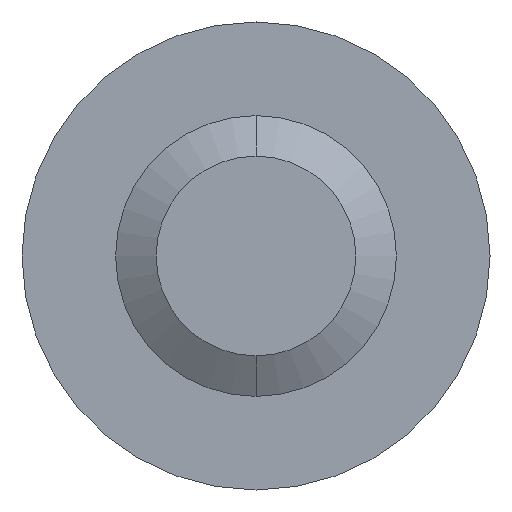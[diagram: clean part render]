
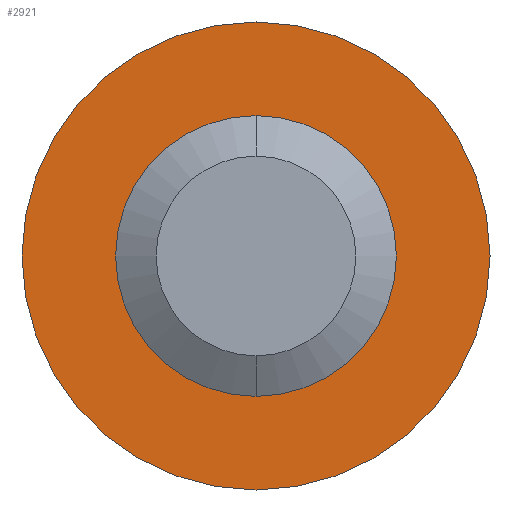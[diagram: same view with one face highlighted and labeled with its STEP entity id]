
A CAD part, front view. The second image highlights one B-rep face of the part: STEP entity #2921.
In plain terms, the highlighted planar face has unit normal (0, -1, 0).
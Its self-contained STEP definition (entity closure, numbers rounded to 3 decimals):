
#412 = EDGE_CURVE ( 'NONE', #1814, #4757, #662, .T. ) ;
#662 = CIRCLE ( 'NONE', #5426, 5. ) ;
#679 = AXIS2_PLACEMENT_3D ( 'NONE', #1621, #2530, #2977 ) ;
#987 = CIRCLE ( 'NONE', #2487, 3. ) ;
#1188 = FACE_BOUND ( 'NONE', #4268, .T. ) ;
#1245 = DIRECTION ( 'NONE',  ( 0., 1., 0. ) ) ;
#1455 = CARTESIAN_POINT ( 'NONE',  ( 0., 50., -5. ) ) ;
#1522 = CIRCLE ( 'NONE', #679, 3. ) ;
#1621 = CARTESIAN_POINT ( 'NONE',  ( 0., 50., 0. ) ) ;
#1706 = DIRECTION ( 'NONE',  ( 0., 0., 1. ) ) ;
#1814 = VERTEX_POINT ( 'NONE', #1455 ) ;
#2206 = CIRCLE ( 'NONE', #2957, 5. ) ;
#2294 = CARTESIAN_POINT ( 'NONE',  ( 0., 50., 0. ) ) ;
#2487 = AXIS2_PLACEMENT_3D ( 'NONE', #3930, #5703, #1706 ) ;
#2530 = DIRECTION ( 'NONE',  ( 0., 1., 0. ) ) ;
#2564 = EDGE_CURVE ( 'NONE', #5469, #5603, #1522, .T. ) ;
#2921 = ADVANCED_FACE ( 'NONE', ( #3822, #1188 ), #4815, .F. ) ;
#2950 = CARTESIAN_POINT ( 'NONE',  ( 0., 50., 0. ) ) ;
#2957 = AXIS2_PLACEMENT_3D ( 'NONE', #3932, #4022, #5328 ) ;
#2977 = DIRECTION ( 'NONE',  ( 0., 0., 1. ) ) ;
#3066 = DIRECTION ( 'NONE',  ( 0., 0., 1. ) ) ;
#3228 = DIRECTION ( 'NONE',  ( 0., 0., 1. ) ) ;
#3317 = CARTESIAN_POINT ( 'NONE',  ( 0., 50., 3. ) ) ;
#3336 = ORIENTED_EDGE ( 'NONE', *, *, #2564, .T. ) ;
#3748 = ORIENTED_EDGE ( 'NONE', *, *, #5024, .F. ) ;
#3822 = FACE_OUTER_BOUND ( 'NONE', #5457, .T. ) ;
#3930 = CARTESIAN_POINT ( 'NONE',  ( 0., 50., 0. ) ) ;
#3932 = CARTESIAN_POINT ( 'NONE',  ( 0., 50., 0. ) ) ;
#3990 = CARTESIAN_POINT ( 'NONE',  ( 0., 50., 5. ) ) ;
#4022 = DIRECTION ( 'NONE',  ( 0., 1., 0. ) ) ;
#4053 = AXIS2_PLACEMENT_3D ( 'NONE', #2950, #1245, #3066 ) ;
#4104 = DIRECTION ( 'NONE',  ( 0., 1., 0. ) ) ;
#4268 = EDGE_LOOP ( 'NONE', ( #3336, #5773 ) ) ;
#4511 = CARTESIAN_POINT ( 'NONE',  ( 0., 50., -3. ) ) ;
#4757 = VERTEX_POINT ( 'NONE', #3990 ) ;
#4815 = PLANE ( 'NONE',  #4053 ) ;
#5024 = EDGE_CURVE ( 'NONE', #4757, #1814, #2206, .T. ) ;
#5253 = ORIENTED_EDGE ( 'NONE', *, *, #412, .F. ) ;
#5309 = EDGE_CURVE ( 'NONE', #5603, #5469, #987, .T. ) ;
#5328 = DIRECTION ( 'NONE',  ( 0., 0., 1. ) ) ;
#5426 = AXIS2_PLACEMENT_3D ( 'NONE', #2294, #4104, #3228 ) ;
#5457 = EDGE_LOOP ( 'NONE', ( #5253, #3748 ) ) ;
#5469 = VERTEX_POINT ( 'NONE', #4511 ) ;
#5603 = VERTEX_POINT ( 'NONE', #3317 ) ;
#5703 = DIRECTION ( 'NONE',  ( 0., 1., 0. ) ) ;
#5773 = ORIENTED_EDGE ( 'NONE', *, *, #5309, .T. ) ;
